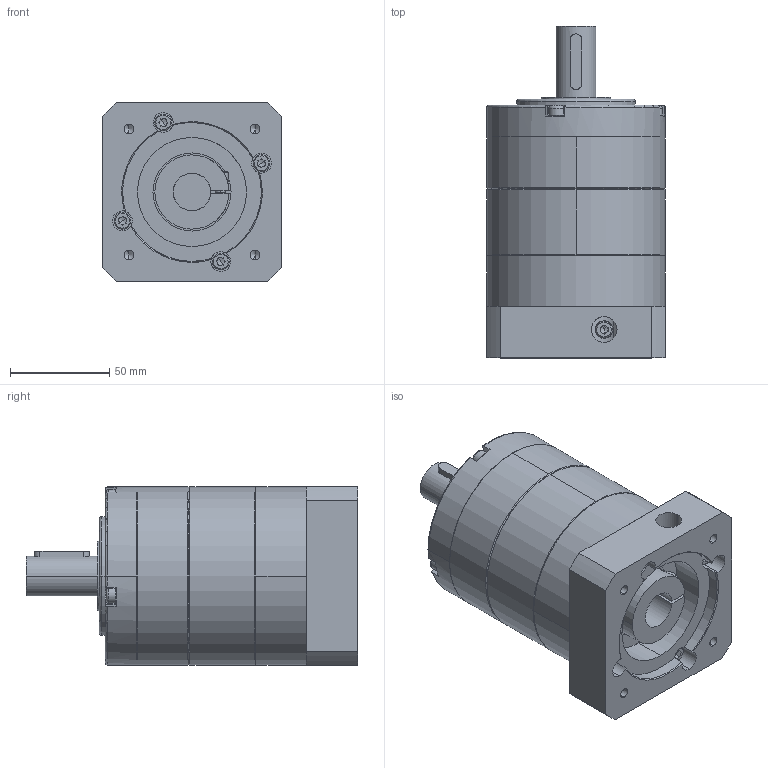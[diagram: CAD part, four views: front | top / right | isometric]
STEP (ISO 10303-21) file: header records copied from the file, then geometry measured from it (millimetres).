
FILE_DESCRIPTION (( 'STEP AP203' ), '1' );
FILE_NAME ('1G3XD.070090.031.STEP', '2022-07-26T03:41:23', ( '' ), ( '' ), 'SwSTEP 2.0', 'SolidWorks 2010', '' );
FILE_SCHEMA (( 'CONFIG_CONTROL_DESIGN' ));
Length unit declared in the file: millimetre
Products named in the file (11): M4､ｺ､ｻｨ､ﾁｳｵｷ[ｼﾒｲﾕ､ﾆ]12~70mm_M4xP0.7x65L; M5､ｺ､ｻｨ､ﾁｳｵｷ[ｼﾒｲﾕ､ﾆ]8~95mm_020mm; 雙圓鍵6x28; 1G3XD.070090.031; PNS80-FP(模型)_4.成品; PBE90-CMB(234BN33201)_成品; PAN34-B(插齒模型)_7.縮短; 沉頭內六角M5xP0.8x20L_CB5-5; PAN34-BP(雙段模型)_1.?19; PAN34-EB(插齒模型)_4.成品; 沉頭內六角M5xP0.8x15L_CB5-5
Assembly tree (19 placements, depth 2):
  1G3XD.070090.031
    沉頭內六角M5xP0.8x15L_CB5-5
    M4､ｺ､ｻｨ､ﾁｳｵｷ[ｼﾒｲﾕ､ﾆ]12~70mm_M4xP0.7x65L  x4
    M5､ｺ､ｻｨ､ﾁｳｵｷ[ｼﾒｲﾕ､ﾆ]8~95mm_020mm  x4
    沉頭內六角M5xP0.8x20L_CB5-5  x4
    PNS80-FP(模型)_4.成品
    PAN34-B(插齒模型)_7.縮短
    雙圓鍵6x28
    PBE90-CMB(234BN33201)_成品
    PAN34-BP(雙段模型)_1.?19
    PAN34-EB(插齒模型)_4.成品
Bounding box: 90 x 167.5 x 90 mm (x, y, z)
Volume: 786372.1 mm3; surface area: 137866.5 mm2
Topology: 19 solids, 19 shells, 641 faces, 1519 edges, 936 vertices
Faces by surface type: plane 247, cylinder 244, cone 123, torus 25, bspline 2
Entity records: 18107 total; most frequent: CARTESIAN_POINT 6297, DIRECTION 2334, ORIENTED_EDGE 2050, EDGE_CURVE 1025, AXIS2_PLACEMENT_3D 951, VERTEX_POINT 660, EDGE_LOOP 525, CIRCLE 500
